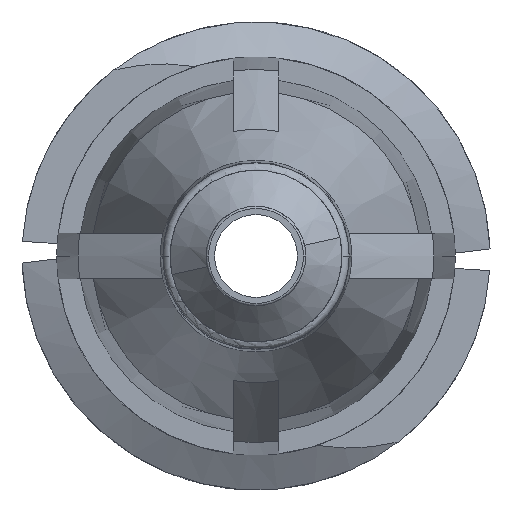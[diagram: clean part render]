
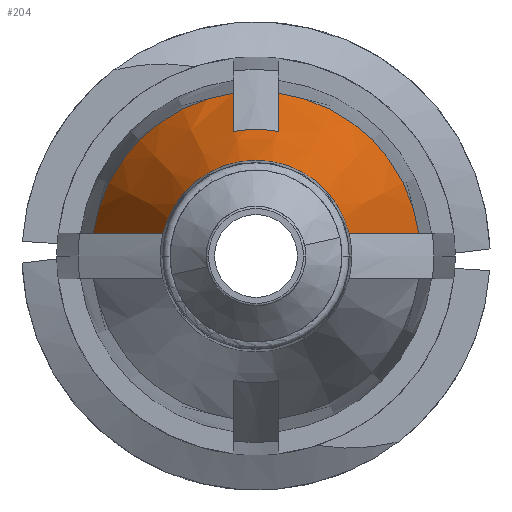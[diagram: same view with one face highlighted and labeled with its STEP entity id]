
A CAD part, front view. The second image highlights one B-rep face of the part: STEP entity #204.
In plain terms, the highlighted conical face has half-angle 20 degrees and reference radius 2.745 mm.
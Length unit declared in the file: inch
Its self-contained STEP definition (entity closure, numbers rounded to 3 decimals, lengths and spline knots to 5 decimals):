
#29 = AXIS2_PLACEMENT_3D ( 'NONE', #281, #2951, #2227 ) ;
#48 = ORIENTED_EDGE ( 'NONE', *, *, #2174, .F. ) ;
#86 = CARTESIAN_POINT ( 'NONE',  ( 0.015, -0.47395, 0.08198 ) ) ;
#204 = ADVANCED_FACE ( 'NONE', ( #2302 ), #984, .T. ) ;
#241 = EDGE_CURVE ( 'NONE', #3195, #1285, #2600, .T. ) ;
#249 = B_SPLINE_CURVE_WITH_KNOTS ( 'NONE', 3,
 ( #1769, #2823, #2570, #938 ),
 .UNSPECIFIED., .F., .F.,
 ( 4, 4 ),
 ( 0.00282, 0.00617 ),
 .UNSPECIFIED. ) ;
#281 = CARTESIAN_POINT ( 'NONE',  ( 0., -0.47395, 0. ) ) ;
#291 = CARTESIAN_POINT ( 'NONE',  ( 0.015, -0.406, 0.10703 ) ) ;
#310 = CIRCLE ( 'NONE', #1084, 0.10808 ) ;
#411 = CARTESIAN_POINT ( 'NONE',  ( -0.07664, -0.48863, 0.015 ) ) ;
#459 = ORIENTED_EDGE ( 'NONE', *, *, #1201, .F. ) ;
#466 = CARTESIAN_POINT ( 'NONE',  ( 0.015, -0.47395, 0.08198 ) ) ;
#475 = DIRECTION ( 'NONE',  ( 0., 1., 0. ) ) ;
#518 = CARTESIAN_POINT ( 'NONE',  ( -0.015, -0.406, 0.10703 ) ) ;
#528 = CARTESIAN_POINT ( 'NONE',  ( -0.015, -0.47395, 0.08198 ) ) ;
#544 = DIRECTION ( 'NONE',  ( 0., 1., 0. ) ) ;
#565 = ORIENTED_EDGE ( 'NONE', *, *, #1559, .F. ) ;
#645 = CARTESIAN_POINT ( 'NONE',  ( -0.10703, -0.406, 0.015 ) ) ;
#787 = CARTESIAN_POINT ( 'NONE',  ( -0.015, -0.45131, 0.09036 ) ) ;
#924 = B_SPLINE_CURVE_WITH_KNOTS ( 'NONE', 3,
 ( #1731, #411, #937, #645 ),
 .UNSPECIFIED., .F., .F.,
 ( 4, 4 ),
 ( 0.00282, 0.00617 ),
 .UNSPECIFIED. ) ;
#937 = CARTESIAN_POINT ( 'NONE',  ( -0.09185, -0.44732, 0.015 ) ) ;
#938 = CARTESIAN_POINT ( 'NONE',  ( 0.10703, -0.406, 0.015 ) ) ;
#942 = CARTESIAN_POINT ( 'NONE',  ( 0.015, -0.406, 0.10703 ) ) ;
#984 = CONICAL_SURFACE ( 'NONE', #2095, 0.10808, 0.349 ) ;
#1048 = CARTESIAN_POINT ( 'NONE',  ( -0.015, -0.42866, 0.0987 ) ) ;
#1084 = AXIS2_PLACEMENT_3D ( 'NONE', #2867, #475, #2641 ) ;
#1188 = CIRCLE ( 'NONE', #3244, 0.10808 ) ;
#1201 = EDGE_CURVE ( 'NONE', #2976, #2233, #2083, .T. ) ;
#1231 = DIRECTION ( 'NONE',  ( -1., 0., 0. ) ) ;
#1285 = VERTEX_POINT ( 'NONE', #1671 ) ;
#1286 = CARTESIAN_POINT ( 'NONE',  ( 0., -0.52985, 0. ) ) ;
#1325 = B_SPLINE_CURVE_WITH_KNOTS ( 'NONE', 3,
 ( #86, #2202, #2794, #942 ),
 .UNSPECIFIED., .F., .F.,
 ( 4, 4 ),
 ( 0.00247, 0.00431 ),
 .UNSPECIFIED. ) ;
#1459 = VERTEX_POINT ( 'NONE', #3301 ) ;
#1557 = VERTEX_POINT ( 'NONE', #466 ) ;
#1559 = EDGE_CURVE ( 'NONE', #1459, #2976, #1188, .T. ) ;
#1671 = CARTESIAN_POINT ( 'NONE',  ( 0.06119, -0.52985, 0.015 ) ) ;
#1704 = EDGE_LOOP ( 'NONE', ( #3378, #3360, #1789, #48, #2861, #2068, #459, #565 ) ) ;
#1712 = EDGE_CURVE ( 'NONE', #3195, #1459, #924, .T. ) ;
#1731 = CARTESIAN_POINT ( 'NONE',  ( -0.06119, -0.52985, 0.015 ) ) ;
#1763 = CARTESIAN_POINT ( 'NONE',  ( -0.015, -0.47395, 0.08198 ) ) ;
#1769 = CARTESIAN_POINT ( 'NONE',  ( 0.06119, -0.52985, 0.015 ) ) ;
#1777 = DIRECTION ( 'NONE',  ( -1., 0., 0. ) ) ;
#1785 = CARTESIAN_POINT ( 'NONE',  ( 0.10703, -0.406, 0.015 ) ) ;
#1789 = ORIENTED_EDGE ( 'NONE', *, *, #2765, .T. ) ;
#1936 = VERTEX_POINT ( 'NONE', #291 ) ;
#2025 = CIRCLE ( 'NONE', #29, 0.08335 ) ;
#2038 = CARTESIAN_POINT ( 'NONE',  ( 0., -0.406, 0. ) ) ;
#2068 = ORIENTED_EDGE ( 'NONE', *, *, #2729, .F. ) ;
#2083 = B_SPLINE_CURVE_WITH_KNOTS ( 'NONE', 3,
 ( #3170, #1048, #787, #528 ),
 .UNSPECIFIED., .F., .F.,
 ( 4, 4 ),
 ( 0.00343, 0.00527 ),
 .UNSPECIFIED. ) ;
#2095 = AXIS2_PLACEMENT_3D ( 'NONE', #2038, #3109, #1777 ) ;
#2174 = EDGE_CURVE ( 'NONE', #1936, #2989, #310, .T. ) ;
#2202 = CARTESIAN_POINT ( 'NONE',  ( 0.015, -0.45131, 0.09036 ) ) ;
#2210 = AXIS2_PLACEMENT_3D ( 'NONE', #1286, #2355, #1231 ) ;
#2227 = DIRECTION ( 'NONE',  ( 1., 0., 0. ) ) ;
#2233 = VERTEX_POINT ( 'NONE', #1763 ) ;
#2302 = FACE_OUTER_BOUND ( 'NONE', #1704, .T. ) ;
#2355 = DIRECTION ( 'NONE',  ( 0., 1., 0. ) ) ;
#2403 = EDGE_CURVE ( 'NONE', #1557, #1936, #1325, .T. ) ;
#2570 = CARTESIAN_POINT ( 'NONE',  ( 0.09185, -0.44732, 0.015 ) ) ;
#2600 = CIRCLE ( 'NONE', #2210, 0.063 ) ;
#2607 = CARTESIAN_POINT ( 'NONE',  ( -0.06119, -0.52985, 0.015 ) ) ;
#2641 = DIRECTION ( 'NONE',  ( -1., 0., 0. ) ) ;
#2671 = DIRECTION ( 'NONE',  ( -1., 0., 0. ) ) ;
#2729 = EDGE_CURVE ( 'NONE', #2233, #1557, #2025, .T. ) ;
#2765 = EDGE_CURVE ( 'NONE', #1285, #2989, #249, .T. ) ;
#2794 = CARTESIAN_POINT ( 'NONE',  ( 0.015, -0.42866, 0.0987 ) ) ;
#2823 = CARTESIAN_POINT ( 'NONE',  ( 0.07664, -0.48863, 0.015 ) ) ;
#2861 = ORIENTED_EDGE ( 'NONE', *, *, #2403, .F. ) ;
#2867 = CARTESIAN_POINT ( 'NONE',  ( 0., -0.406, 0. ) ) ;
#2932 = CARTESIAN_POINT ( 'NONE',  ( 0., -0.406, 0. ) ) ;
#2951 = DIRECTION ( 'NONE',  ( 0., 1., 0. ) ) ;
#2976 = VERTEX_POINT ( 'NONE', #518 ) ;
#2989 = VERTEX_POINT ( 'NONE', #1785 ) ;
#3109 = DIRECTION ( 'NONE',  ( 0., 1., 0. ) ) ;
#3170 = CARTESIAN_POINT ( 'NONE',  ( -0.015, -0.406, 0.10703 ) ) ;
#3195 = VERTEX_POINT ( 'NONE', #2607 ) ;
#3244 = AXIS2_PLACEMENT_3D ( 'NONE', #2932, #544, #2671 ) ;
#3301 = CARTESIAN_POINT ( 'NONE',  ( -0.10703, -0.406, 0.015 ) ) ;
#3360 = ORIENTED_EDGE ( 'NONE', *, *, #241, .T. ) ;
#3378 = ORIENTED_EDGE ( 'NONE', *, *, #1712, .F. ) ;
